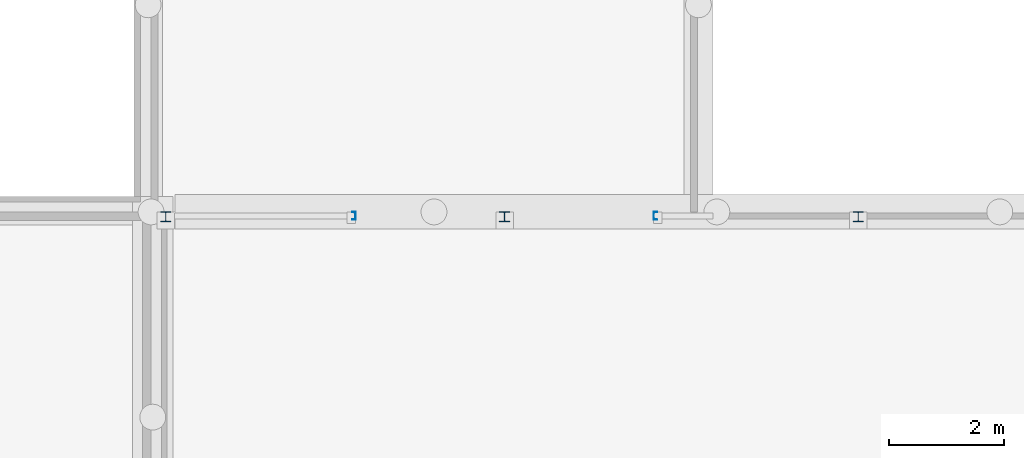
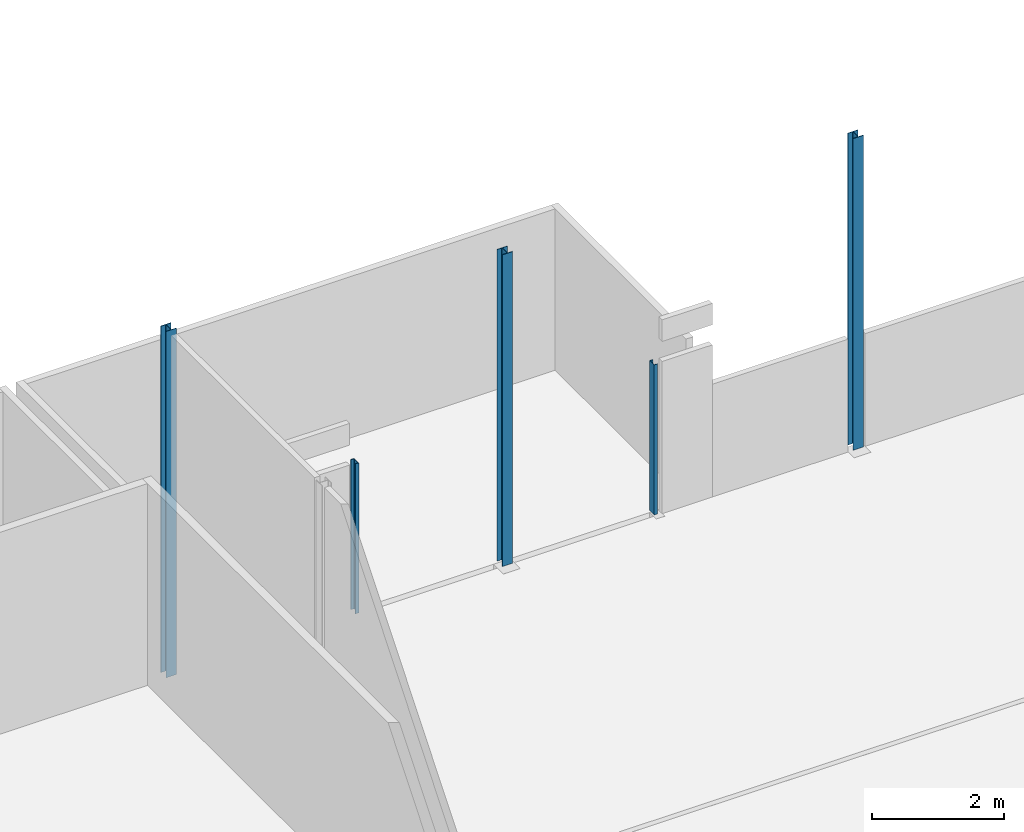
# One storey, part 7 of 18: 5 columns.
"""IFC2X3 building model written with IfcOpenShell, lengths in millimetres."""

from ifc_helpers import new_model, entity, si_unit, converted_unit, derived_unit, direction, frame, frame_2d, origin, place, context, subcontext, project, spatial, polyline, circle_curve, parameter, trimmed, segment, composite_curve, outline, extrude, source, transform, mapped, material, material_list, type_object, type_shapes, element, save


model = new_model("IFC2X3")

# Units and contexts
model_context = context("Model", 3, precision=0.01, world=origin(), true_north=direction((6.12303176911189e-17, 1.0)))
body_context = subcontext(model_context, "Body", "Model", "MODEL_VIEW")
ifc_project = project(units=[si_unit("LENGTHUNIT", "METRE", prefix="MILLI"), si_unit("AREAUNIT", "SQUARE_METRE"), si_unit("VOLUMEUNIT", "CUBIC_METRE"), converted_unit("PLANEANGLEUNIT", "DEGREE", entity("IfcRatioMeasure", 0.0174532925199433), si_unit("PLANEANGLEUNIT", "RADIAN"), dimensions=[0, 0, 0, 0, 0, 0, 0]), si_unit("MASSUNIT", "GRAM", prefix="KILO"), derived_unit("MASSDENSITYUNIT", [(si_unit("MASSUNIT", "GRAM", prefix="KILO"), 1), (si_unit("LENGTHUNIT", "METRE"), -3)]), derived_unit("MOMENTOFINERTIAUNIT", [(si_unit("LENGTHUNIT", "METRE"), 4)]), si_unit("TIMEUNIT", "SECOND"), si_unit("FREQUENCYUNIT", "HERTZ"), si_unit("THERMODYNAMICTEMPERATUREUNIT", "DEGREE_CELSIUS"), derived_unit("THERMALTRANSMITTANCEUNIT", [(si_unit("MASSUNIT", "GRAM", prefix="KILO"), 1), (si_unit("THERMODYNAMICTEMPERATUREUNIT", "KELVIN"), -1), (si_unit("TIMEUNIT", "SECOND"), -3)]), derived_unit("VOLUMETRICFLOWRATEUNIT", [(si_unit("LENGTHUNIT", "METRE"), 3), (si_unit("TIMEUNIT", "SECOND"), -1)]), si_unit("ELECTRICCURRENTUNIT", "AMPERE"), si_unit("ELECTRICVOLTAGEUNIT", "VOLT"), si_unit("POWERUNIT", "WATT"), si_unit("FORCEUNIT", "NEWTON", prefix="KILO"), si_unit("ILLUMINANCEUNIT", "LUX"), si_unit("LUMINOUSFLUXUNIT", "LUMEN"), si_unit("LUMINOUSINTENSITYUNIT", "CANDELA"), derived_unit("USERDEFINED", [(si_unit("MASSUNIT", "GRAM", prefix="KILO"), -1), (si_unit("LENGTHUNIT", "METRE"), -2), (si_unit("TIMEUNIT", "SECOND"), 3), (si_unit("LUMINOUSFLUXUNIT", "LUMEN"), 1)]), derived_unit("LINEARVELOCITYUNIT", [(si_unit("LENGTHUNIT", "METRE"), 1), (si_unit("TIMEUNIT", "SECOND"), -1)]), si_unit("PRESSUREUNIT", "PASCAL"), derived_unit("USERDEFINED", [(si_unit("LENGTHUNIT", "METRE"), -2), (si_unit("MASSUNIT", "GRAM", prefix="KILO"), 1), (si_unit("TIMEUNIT", "SECOND"), -2)]), derived_unit("LINEARFORCEUNIT", [(si_unit("MASSUNIT", "GRAM", prefix="KILO"), 1), (si_unit("LENGTHUNIT", "METRE"), 1), (si_unit("TIMEUNIT", "SECOND"), -2), (si_unit("LENGTHUNIT", "METRE"), -1)]), derived_unit("PLANARFORCEUNIT", [(si_unit("MASSUNIT", "GRAM", prefix="KILO"), 1), (si_unit("LENGTHUNIT", "METRE"), 1), (si_unit("TIMEUNIT", "SECOND"), -2), (si_unit("LENGTHUNIT", "METRE"), -2)])], contexts=[model_context])

# Site, building, storey
site_placement = place(None, origin())
site = spatial("IfcSite", under=ifc_project, at=site_placement, Name="Default", CompositionType="ELEMENT")
building_placement = place(site_placement, origin())
building = spatial("IfcBuilding", under=site, at=building_placement, CompositionType="ELEMENT")
storey_placement = place(building_placement, frame((0.0, 0.0, -1085.0)))
storey = spatial("IfcBuildingStorey", under=building, at=storey_placement, Name="-00 fundatie", CompositionType="ELEMENT", Elevation=-1085.0)

# Columns
ifc_material_1 = material(Name="h2_staal")
column_type_1 = type_object("IfcColumnType", Name="BERSnl_28_SCO_TLB_kolom hea_gen_ISR:kolom gen hea180", PredefinedType="COLUMN", material=ifc_material_1)
shared_shape_1 = source(origin(), body_context, "Body", "SweptSolid", [
    extrude(outline(composite_curve([segment(polyline([(76.0, -90.0), (85.5, -90.0)]), True, "CONTINUOUS"), segment(polyline([(85.5, -90.0), (85.5, 90.0)]), True, "CONTINUOUS"), segment(polyline([(85.5, 90.0), (76.0, 90.0)]), True, "CONTINUOUS"), segment(polyline([(76.0, 90.0), (76.0, 18.0)]), True, "CONTINUOUS"), segment(trimmed(circle_curve(frame_2d((61.0, 18.0), x_axis=(1.0, 0.0)), 15.000000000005), [parameter(270.000000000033)], [parameter(0.0)], True, "PARAMETER"), False, "CONTINUOUS"), segment(polyline([(61.0, 3.0), (-61.0, 3.0)]), True, "CONTINUOUS"), segment(trimmed(circle_curve(frame_2d((-61.0, 18.0), x_axis=(0.0, -1.0)), 15.000000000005), [parameter(270.000000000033)], [parameter(0.0)], True, "PARAMETER"), False, "CONTINUOUS"), segment(polyline([(-76.0, 18.0), (-76.0, 90.0)]), True, "CONTINUOUS"), segment(polyline([(-76.0, 90.0), (-85.5, 90.0)]), True, "CONTINUOUS"), segment(polyline([(-85.5, 90.0), (-85.5, -90.0)]), True, "CONTINUOUS"), segment(polyline([(-85.5, -90.0), (-76.0, -90.0)]), True, "CONTINUOUS"), segment(polyline([(-76.0, -90.0), (-76.0, -18.0)]), True, "CONTINUOUS"), segment(trimmed(circle_curve(frame_2d((-61.0, -18.0), x_axis=(-1.0, 0.0)), 15.000000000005), [parameter(270.000000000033)], [parameter(0.0)], True, "PARAMETER"), False, "CONTINUOUS"), segment(polyline([(-61.0, -3.0), (61.0, -3.0)]), True, "CONTINUOUS"), segment(trimmed(circle_curve(frame_2d((61.0, -18.0), x_axis=(0.0, 1.0)), 15.000000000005), [parameter(270.000000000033)], [parameter(0.0)], True, "PARAMETER"), False, "CONTINUOUS"), segment(polyline([(76.0, -18.0), (76.0, -90.0)]), True, "CONTINUOUS")], self_intersect=False)), frame((35089.4270571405, 35410.7966282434, -50.0), z_axis=(0.0, 0.0, 1.0), x_axis=(0.0, -1.0, 0.0)), (0.0, 0.0, 1.0), 6419.99999999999),
])
type_shapes(column_type_1, [shared_shape_1])
column_1_placement = place(storey_placement, frame((0.0, 0.0, 1085.0)))
element("IfcColumn", 1, at=column_1_placement, inside=storey, type_object=column_type_1, Name="BERSnl_28_SCO_TLB_kolom hea_gen_ISR:kolom gen hea180", ObjectType="BERSnl_28_SCO_TLB_kolom hea_gen_ISR:kolom gen hea180", context=body_context, shape_type="MappedRepresentation", body=[
    mapped(shared_shape_1, transform((0.0, 0.0, 0.0), scale=1.0)),
])
column_type_2 = type_object("IfcColumnType", Name="BERSnl_28_SCO_TLB_kolom hea_gen_ISR:kolom gen hea180", PredefinedType="COLUMN", material=ifc_material_1)
shared_shape_2 = source(origin(), body_context, "Body", "SweptSolid", [
    extrude(outline(composite_curve([segment(polyline([(76.0, -90.0), (85.5000000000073, -90.0)]), True, "CONTINUOUS"), segment(polyline([(85.5, -90.0), (85.5, 90.0)]), True, "CONTINUOUS"), segment(polyline([(85.5, 90.0), (76.0, 90.0)]), True, "CONTINUOUS"), segment(polyline([(76.0, 90.0), (76.0, 18.0)]), True, "CONTINUOUS"), segment(trimmed(circle_curve(frame_2d((61.0, 18.0), x_axis=(1.0, 0.0)), 14.9999999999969), [parameter(269.999999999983)], [parameter(0.0)], True, "PARAMETER"), False, "CONTINUOUS"), segment(polyline([(61.0, 3.0), (-61.0, 3.0)]), True, "CONTINUOUS"), segment(trimmed(circle_curve(frame_2d((-61.0, 18.0), x_axis=(0.0, -1.0)), 14.9999999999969), [parameter(269.999999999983)], [parameter(0.0)], True, "PARAMETER"), False, "CONTINUOUS"), segment(polyline([(-76.0, 18.0), (-76.0, 90.0)]), True, "CONTINUOUS"), segment(polyline([(-76.0, 90.0), (-85.5, 90.0)]), True, "CONTINUOUS"), segment(polyline([(-85.4999999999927, 90.0), (-85.4999999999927, -90.0)]), True, "CONTINUOUS"), segment(polyline([(-85.4999999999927, -90.0), (-76.0, -90.0)]), True, "CONTINUOUS"), segment(polyline([(-76.0, -90.0), (-76.0, -18.0)]), True, "CONTINUOUS"), segment(trimmed(circle_curve(frame_2d((-61.0, -18.0), x_axis=(-1.0, 0.0)), 14.9999999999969), [parameter(269.999999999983)], [parameter(0.0)], True, "PARAMETER"), False, "CONTINUOUS"), segment(polyline([(-61.0, -3.0), (61.0, -3.0)]), True, "CONTINUOUS"), segment(trimmed(circle_curve(frame_2d((61.0, -18.0), x_axis=(0.0, 1.0)), 14.9999999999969), [parameter(269.999999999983)], [parameter(0.0)], True, "PARAMETER"), False, "CONTINUOUS"), segment(polyline([(76.0, -18.0), (76.0, -90.0)]), True, "CONTINUOUS")], self_intersect=False)), frame((40983.4270571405, 35410.7966282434, -50.0), z_axis=(0.0, 0.0, 1.0), x_axis=(0.0, -1.0, 0.0)), (0.0, 0.0, 1.0), 5777.52734826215),
])
type_shapes(column_type_2, [shared_shape_2])
column_2_placement = place(storey_placement, frame((0.0, 0.0, 1085.0)))
element("IfcColumn", 2, at=column_2_placement, inside=storey, type_object=column_type_2, Name="BERSnl_28_SCO_TLB_kolom hea_gen_ISR:kolom gen hea180", ObjectType="BERSnl_28_SCO_TLB_kolom hea_gen_ISR:kolom gen hea180", context=body_context, shape_type="MappedRepresentation", body=[
    mapped(shared_shape_2, transform((0.0, 0.0, 0.0), scale=1.0)),
])
column_type_3 = type_object("IfcColumnType", Name="BERSnl_28_SCO_TLB_kolom hea_gen_ISR:kolom gen hea180", PredefinedType="COLUMN", material=ifc_material_1)
shared_shape_3 = source(origin(), body_context, "Body", "SweptSolid", [
    extrude(outline(composite_curve([segment(polyline([(76.0, -90.0), (85.5000000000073, -90.0)]), True, "CONTINUOUS"), segment(polyline([(85.5, -90.0), (85.5, 90.0)]), True, "CONTINUOUS"), segment(polyline([(85.5, 90.0), (76.0, 90.0)]), True, "CONTINUOUS"), segment(polyline([(76.0, 90.0), (76.0, 18.0)]), True, "CONTINUOUS"), segment(trimmed(circle_curve(frame_2d((61.0, 18.0), x_axis=(1.0, 0.0)), 14.9999999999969), [parameter(269.999999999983)], [parameter(0.0)], True, "PARAMETER"), False, "CONTINUOUS"), segment(polyline([(61.0, 3.0), (-61.0, 3.0)]), True, "CONTINUOUS"), segment(trimmed(circle_curve(frame_2d((-61.0, 18.0), x_axis=(0.0, -1.0)), 14.9999999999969), [parameter(269.999999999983)], [parameter(0.0)], True, "PARAMETER"), False, "CONTINUOUS"), segment(polyline([(-76.0, 18.0), (-76.0, 90.0)]), True, "CONTINUOUS"), segment(polyline([(-76.0, 90.0), (-85.5, 90.0)]), True, "CONTINUOUS"), segment(polyline([(-85.4999999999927, 90.0), (-85.4999999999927, -90.0)]), True, "CONTINUOUS"), segment(polyline([(-85.4999999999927, -90.0), (-76.0, -90.0)]), True, "CONTINUOUS"), segment(polyline([(-76.0, -90.0), (-76.0, -18.0)]), True, "CONTINUOUS"), segment(trimmed(circle_curve(frame_2d((-61.0, -18.0), x_axis=(-1.0, 0.0)), 14.9999999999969), [parameter(269.999999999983)], [parameter(0.0)], True, "PARAMETER"), False, "CONTINUOUS"), segment(polyline([(-61.0, -3.0), (61.0, -3.0)]), True, "CONTINUOUS"), segment(trimmed(circle_curve(frame_2d((61.0, -18.0), x_axis=(0.0, 1.0)), 14.9999999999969), [parameter(269.999999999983)], [parameter(0.0)], True, "PARAMETER"), False, "CONTINUOUS"), segment(polyline([(76.0, -18.0), (76.0, -90.0)]), True, "CONTINUOUS")], self_intersect=False)), frame((47133.4270571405, 35410.7966282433, -50.0), z_axis=(0.0, 0.0, 1.0), x_axis=(0.0, -1.0, 0.0)), (0.0, 0.0, 1.0), 5778.83796865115),
])
type_shapes(column_type_3, [shared_shape_3])
column_3_placement = place(storey_placement, frame((0.0, 0.0, 1085.0)))
element("IfcColumn", 3, at=column_3_placement, inside=storey, type_object=column_type_3, Name="BERSnl_28_SCO_TLB_kolom hea_gen_ISR:kolom gen hea180", ObjectType="BERSnl_28_SCO_TLB_kolom hea_gen_ISR:kolom gen hea180", context=body_context, shape_type="MappedRepresentation", body=[
    mapped(shared_shape_3, transform((0.0, 0.0, 0.0), scale=1.0)),
])
ifc_material_2 = material(Name="<Unnamed>")
ifc_material_3 = material(Name="00_Staal_generiek")
ifc_material_list_1 = material_list([ifc_material_2, ifc_material_3])
column_type_4 = type_object("IfcColumnType", Name="BERSnl_28_SCO_TLB_kolom unp_gen_ISR:kolom_gen_UNP140", PredefinedType="COLUMN", material=ifc_material_list_1)
shared_shape_4 = source(origin(), body_context, "Body", "SweptSolid", [
    extrude(outline(composite_curve([segment(polyline([(-70.0, -33.1001241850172), (70.0, -33.1001241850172)]), True, "CONTINUOUS"), segment(polyline([(70.0, -33.1001241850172), (70.0, 26.8998758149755)]), True, "CONTINUOUS"), segment(polyline([(70.0, 26.8998758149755), (66.7383127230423, 26.8998758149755)]), True, "CONTINUOUS"), segment(trimmed(circle_curve(frame_2d((66.7383127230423, 21.8998758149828), x_axis=(0.0, 1.0)), 4.99999999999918), [parameter(0.0)], [parameter(85.4200000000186)], True, "PARAMETER"), True, "CONTINUOUS"), segment(polyline([(61.7542786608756, 22.2991307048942), (58.6142721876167, -16.8986339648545)]), True, "CONTINUOUS"), segment(trimmed(circle_curve(frame_2d((48.6462040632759, -16.1001241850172), x_axis=(0.996806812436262, -0.0798509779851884)), 9.99999999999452), [parameter(274.579999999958)], [parameter(0.0)], True, "PARAMETER"), False, "CONTINUOUS"), segment(polyline([(48.6462040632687, -26.1001241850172), (-48.6462040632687, -26.1001241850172)]), True, "CONTINUOUS"), segment(trimmed(circle_curve(frame_2d((-48.6462040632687, -16.1001241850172), x_axis=(0.0, -1.0)), 9.99999999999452), [parameter(274.579999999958)], [parameter(0.0)], True, "PARAMETER"), False, "CONTINUOUS"), segment(polyline([(-58.6142721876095, -16.8986339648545), (-61.7542786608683, 22.2991307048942)]), True, "CONTINUOUS"), segment(trimmed(circle_curve(frame_2d((-66.7383127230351, 21.8998758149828), x_axis=(0.996806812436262, 0.0798509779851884)), 4.99999999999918), [parameter(0.0)], [parameter(85.4200000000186)], True, "PARAMETER"), True, "CONTINUOUS"), segment(polyline([(-66.7383127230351, 26.8998758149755), (-70.0, 26.8998758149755)]), True, "CONTINUOUS"), segment(polyline([(-70.0, 26.8998758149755), (-70.0, -33.1001241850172)]), True, "CONTINUOUS")], self_intersect=False)), frame((43606.5271813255, 35426.2966282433, -50.0), z_axis=(0.0, 0.0, 1.0), x_axis=(0.0, -1.0, 0.0)), (0.0, 0.0, 1.0), 2778.99999999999),
])
type_shapes(column_type_4, [shared_shape_4])
column_4_placement = place(storey_placement, frame((0.0, 0.0, 1085.0)))
element("IfcColumn", 4, at=column_4_placement, inside=storey, type_object=column_type_4, Name="BERSnl_28_SCO_TLB_kolom unp_gen_ISR:kolom_gen_UNP140", ObjectType="BERSnl_28_SCO_TLB_kolom unp_gen_ISR:kolom_gen_UNP140", context=body_context, shape_type="MappedRepresentation", body=[
    mapped(shared_shape_4, transform((0.0, 0.0, 0.0), scale=1.0)),
])
ifc_material_list_2 = material_list([ifc_material_2, ifc_material_3])
column_type_5 = type_object("IfcColumnType", Name="BERSnl_28_SCO_TLB_kolom unp_gen_ISR:kolom_gen_UNP140", PredefinedType="COLUMN", material=ifc_material_list_2)
shared_shape_5 = source(origin(), body_context, "Body", "SweptSolid", [
    extrude(outline(composite_curve([segment(polyline([(-70.0, -26.8998758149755), (-66.7383127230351, -26.8998758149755)]), True, "CONTINUOUS"), segment(trimmed(circle_curve(frame_2d((-66.7383127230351, -21.8998758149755), x_axis=(0.0, -1.0)), 4.99999999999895), [parameter(0.0)], [parameter(85.4200000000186)], True, "PARAMETER"), True, "CONTINUOUS"), segment(polyline([(-61.7542786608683, -22.2991307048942), (-58.6142721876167, 16.8986339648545)]), True, "CONTINUOUS"), segment(trimmed(circle_curve(frame_2d((-48.6462040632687, 16.1001241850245), x_axis=(-0.996806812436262, 0.0798509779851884)), 10.0000000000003), [parameter(274.580000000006)], [parameter(0.0)], True, "PARAMETER"), False, "CONTINUOUS"), segment(polyline([(-48.6462040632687, 26.1001241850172), (48.6462040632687, 26.1001241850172)]), True, "CONTINUOUS"), segment(trimmed(circle_curve(frame_2d((48.6462040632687, 16.1001241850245), x_axis=(0.0, 1.0)), 10.0000000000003), [parameter(274.580000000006)], [parameter(0.0)], True, "PARAMETER"), False, "CONTINUOUS"), segment(polyline([(58.6142721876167, 16.8986339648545), (61.7542786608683, -22.2991307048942)]), True, "CONTINUOUS"), segment(trimmed(circle_curve(frame_2d((66.7383127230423, -21.8998758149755), x_axis=(-0.996806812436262, -0.0798509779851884)), 4.99999999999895), [parameter(0.0)], [parameter(85.4200000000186)], True, "PARAMETER"), True, "CONTINUOUS"), segment(polyline([(66.7383127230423, -26.8998758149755), (70.0, -26.8998758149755)]), True, "CONTINUOUS"), segment(polyline([(70.0, -26.8998758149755), (70.0, 33.1001241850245)]), True, "CONTINUOUS"), segment(polyline([(70.0, 33.1001241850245), (-70.0, 33.1001241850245)]), True, "CONTINUOUS"), segment(polyline([(-70.0, 33.1001241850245), (-70.0, -26.8998758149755)]), True, "CONTINUOUS")], self_intersect=False)), frame((38360.3269329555, 35426.2966282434, -50.0), z_axis=(0.0, 0.0, 1.0), x_axis=(0.0, -1.0, 0.0)), (0.0, 0.0, 1.0), 2778.99999999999),
])
type_shapes(column_type_5, [shared_shape_5])
column_5_placement = place(storey_placement, frame((0.0, 0.0, 1085.0)))
element("IfcColumn", 5, at=column_5_placement, inside=storey, type_object=column_type_5, Name="BERSnl_28_SCO_TLB_kolom unp_gen_ISR:kolom_gen_UNP140", ObjectType="BERSnl_28_SCO_TLB_kolom unp_gen_ISR:kolom_gen_UNP140", context=body_context, shape_type="MappedRepresentation", body=[
    mapped(shared_shape_5, transform((0.0, 0.0, 0.0), scale=1.0)),
])

save(model, "model.ifc")
